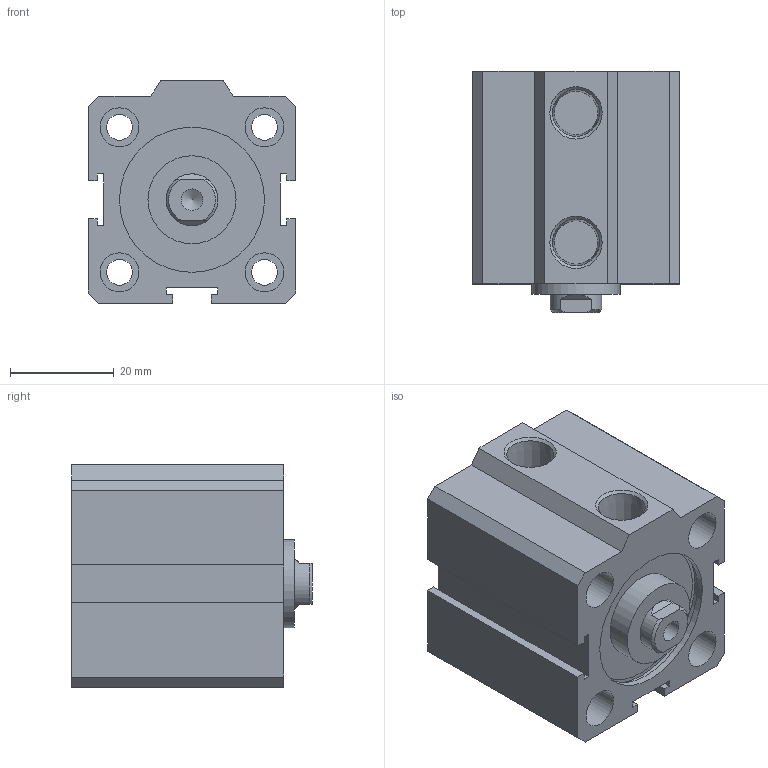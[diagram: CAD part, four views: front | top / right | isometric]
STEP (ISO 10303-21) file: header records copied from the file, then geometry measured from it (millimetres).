
FILE_DESCRIPTION(/* description */ ('Unknown'),/* implementation_level */ '2;1');
FILE_NAME(/* name */ 'WJ25-20',/* time_stamp */ '2026-07-17T16:16:54+08:00',/* author */ ('Unknown'),/* organization */ ('Unknown'),/* preprocessor_version */ 'ST-DEVELOPER v16.7',/* originating_system */ 'DEX',/* authorisation */ $);
FILE_SCHEMA (('CONFIG_CONTROL_DESIGN'));
Length unit declared in the file: millimetre
Products named in the file (5): WJ25-20; WJ25_前; WJ25_後; WJ25_¤ß¶b¬¡æ´»å¡žçµ„
Assembly tree (4 placements, depth 2):
  WJ25-20
    (unnamed)
    WJ25_前
    WJ25_後
    WJ25_¤ß¶b¬¡æ´»å¡žçµ„
Bounding box: 40 x 46.5 x 43 mm (x, y, z)
Volume: 48509.7 mm3; surface area: 23253.3 mm2
Topology: 4 solids, 4 shells, 101 faces, 236 edges, 162 vertices
Faces by surface type: plane 67, cylinder 27, cone 7
Full cylindrical faces by diameter (mm): 4.2 x1, 5 x4, 7.5 x8, 10 x2, 17 x2, 25 x2, 28 x6, 29.4 x2
Entity records: 3352 total; most frequent: DIRECTION 458, CARTESIAN_POINT 447, ORIENTED_EDGE 370, EDGE_CURVE 185, AXIS2_PLACEMENT_3D 171, FACE_BOUND 165, EDGE_LOOP 164, VERTEX_POINT 144
